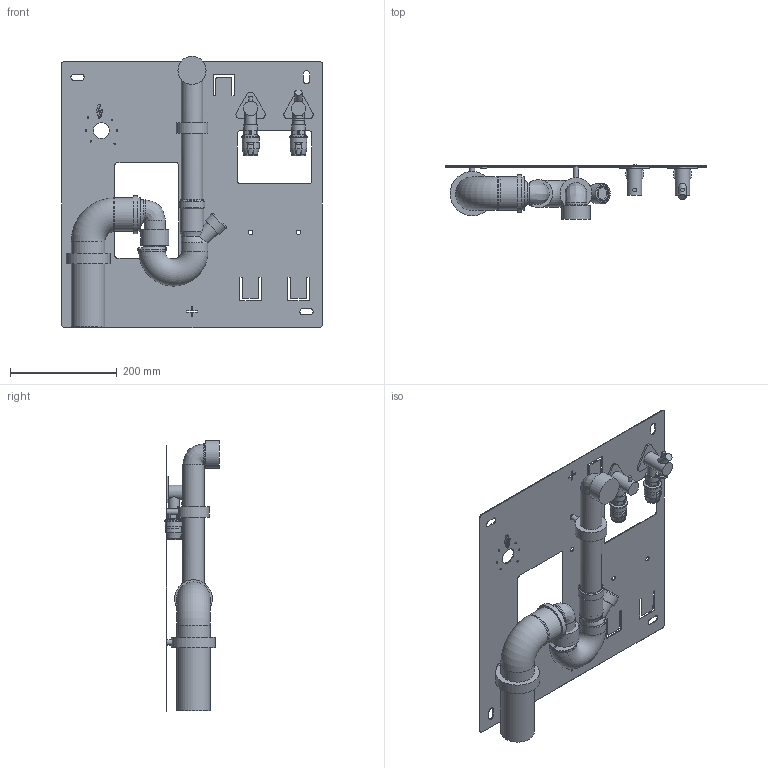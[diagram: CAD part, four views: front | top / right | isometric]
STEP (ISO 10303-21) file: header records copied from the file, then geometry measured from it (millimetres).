
FILE_DESCRIPTION(('STEP AP214'),'1');
FILE_NAME('NYFFix_7970R.STP','2025-09-02T14:28:22',(' '),(' '),'Spatial InterOp 3D',' ',' ');
FILE_SCHEMA(('AUTOMOTIVE_DESIGN { 1 0 10303 214 1 1 1 1 }'));
Length unit declared in the file: millimetre
Products named in the file (1): Torus
Bounding box: 490 x 102.5 x 509.28 mm (x, y, z)
Volume: 1046977.5 mm3; surface area: 864524 mm2
Topology: 56 solids, 56 shells, 710 faces, 1692 edges, 1094 vertices
Faces by surface type: plane 350, cylinder 259, cone 65, torus 21, bspline 15
Full cylindrical faces by diameter (mm): 1.72 x2, 3 x6, 5.1 x6, 7 x2, 8.5 x5, 10 x2, 10.42 x2, 13 x2, 13.867 x1, 14 x1, 15 x2, 15.76 x2, 20 x2, 20.48 x2, 20.5 x2, 21 x2, 22 x1, 22.622 x1, 25 x2, 26 x2, 26.818 x2, 27.2 x2, 29.8 x2, 30 x2, 30.2 x2, 31.8 x2, 33.249 x2, 34 x2, 36 x3, 36.1 x2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
Entity records: 23238 total; most frequent: CARTESIAN_POINT 5205, DIRECTION 3483, ORIENTED_EDGE 2940, EDGE_CURVE 1470, AXIS2_PLACEMENT_3D 1360, VERTEX_POINT 1060, EDGE_LOOP 996, LINE 763
